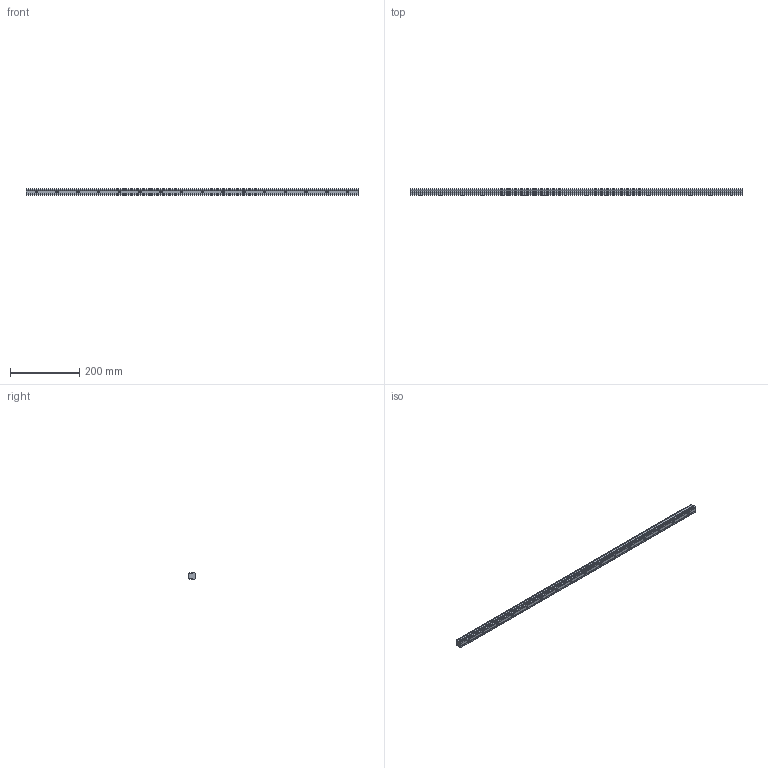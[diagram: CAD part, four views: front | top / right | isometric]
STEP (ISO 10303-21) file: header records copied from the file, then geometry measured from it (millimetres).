
FILE_DESCRIPTION (( 'STEP AP203' ), '1' );
FILE_NAME ('L1018.20R-0960.step', '2023-08-06T09:06:50', ( '' ), ( '' ), 'SwSTEP 2.0', 'SolidWorks 2019', '' );
FILE_SCHEMA (( 'CONFIG_CONTROL_DESIGN' ));
Length unit declared in the file: millimetre
Products named in the file (1): L1018.20R-0960
Bounding box: 960 x 19.3 x 20 mm (x, y, z)
Volume: 304443.1 mm3; surface area: 81662.7 mm2
Topology: 1 solids, 1 shells, 173 faces, 401 edges, 230 vertices
Faces by surface type: cylinder 67, cone 64, plane 42
Entity records: 4742 total; most frequent: DIRECTION 883, CARTESIAN_POINT 773, ORIENTED_EDGE 738, EDGE_CURVE 369, AXIS2_PLACEMENT_3D 340, VERTEX_POINT 230, EDGE_LOOP 205, VECTOR 203
